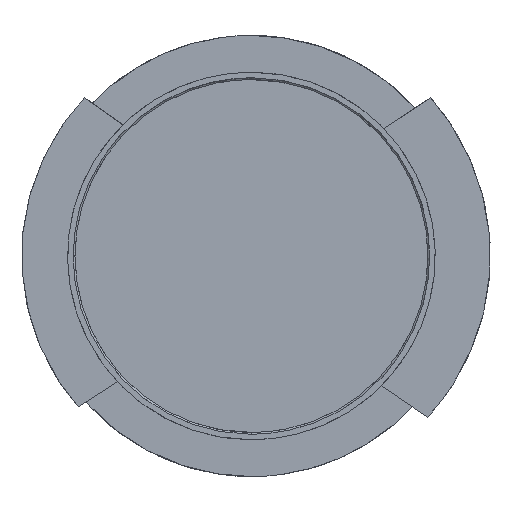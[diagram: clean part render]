
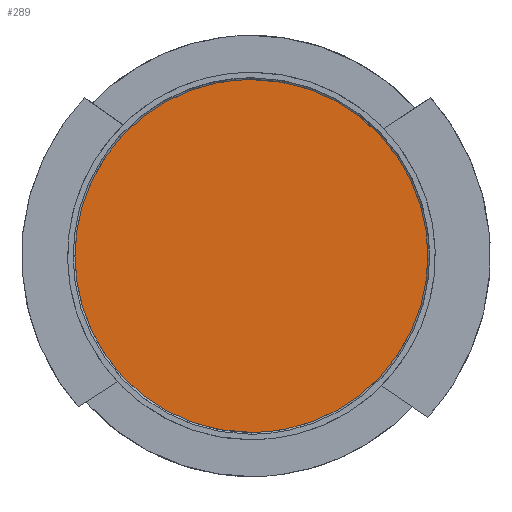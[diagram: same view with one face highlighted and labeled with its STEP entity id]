
A CAD part, front view. The second image highlights one B-rep face of the part: STEP entity #289.
In plain terms, the highlighted planar face has unit normal (0, -1, 0).
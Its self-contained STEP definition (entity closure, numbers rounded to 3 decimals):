
#289=ADVANCED_FACE('',(#420),#2067,.T.);
#420=FACE_OUTER_BOUND('',#563,.T.);
#563=EDGE_LOOP('',(#944,#945));
#944=ORIENTED_EDGE('',*,*,#1390,.F.);
#945=ORIENTED_EDGE('',*,*,#1393,.F.);
#1390=EDGE_CURVE('',#1942,#1943,#1780,.T.);
#1393=EDGE_CURVE('',#1943,#1942,#1782,.T.);
#1780=(
BOUNDED_CURVE()
B_SPLINE_CURVE(2,(#4222,#4223,#4224,#4225,#4226),.UNSPECIFIED.,.F.,.F.)
B_SPLINE_CURVE_WITH_KNOTS((3,2,3),(0.,75.398,150.796),
 .UNSPECIFIED.)
CURVE()
GEOMETRIC_REPRESENTATION_ITEM()
RATIONAL_B_SPLINE_CURVE((1.,0.707,1.,0.707,1.))
REPRESENTATION_ITEM('')
);
#1782=(
BOUNDED_CURVE()
B_SPLINE_CURVE(2,(#4234,#4235,#4236,#4237,#4238),.UNSPECIFIED.,.F.,.F.)
B_SPLINE_CURVE_WITH_KNOTS((3,2,3),(0.,75.398,150.796),
 .UNSPECIFIED.)
CURVE()
GEOMETRIC_REPRESENTATION_ITEM()
RATIONAL_B_SPLINE_CURVE((1.,0.707,1.,0.707,1.))
REPRESENTATION_ITEM('')
);
#1942=VERTEX_POINT('',#4213);
#1943=VERTEX_POINT('',#4214);
#2067=PLANE('',#2437);
#2437=AXIS2_PLACEMENT_3D('',#4210,#2538,$);
#2538=DIRECTION('',(0.,-1.,0.));
#4210=CARTESIAN_POINT('',(-57.601,0.,-57.601));
#4213=CARTESIAN_POINT('',(0.,0.,48.));
#4214=CARTESIAN_POINT('',(0.,0.,-48.));
#4222=CARTESIAN_POINT('',(0.,0.,48.));
#4223=CARTESIAN_POINT('',(48.,0.,48.));
#4224=CARTESIAN_POINT('',(48.,0.,0.));
#4225=CARTESIAN_POINT('',(48.,0.,-48.));
#4226=CARTESIAN_POINT('',(0.,0.,-48.));
#4234=CARTESIAN_POINT('',(0.,0.,-48.));
#4235=CARTESIAN_POINT('',(-48.,0.,-48.));
#4236=CARTESIAN_POINT('',(-48.,0.,0.));
#4237=CARTESIAN_POINT('',(-48.,0.,48.));
#4238=CARTESIAN_POINT('',(0.,0.,48.));
